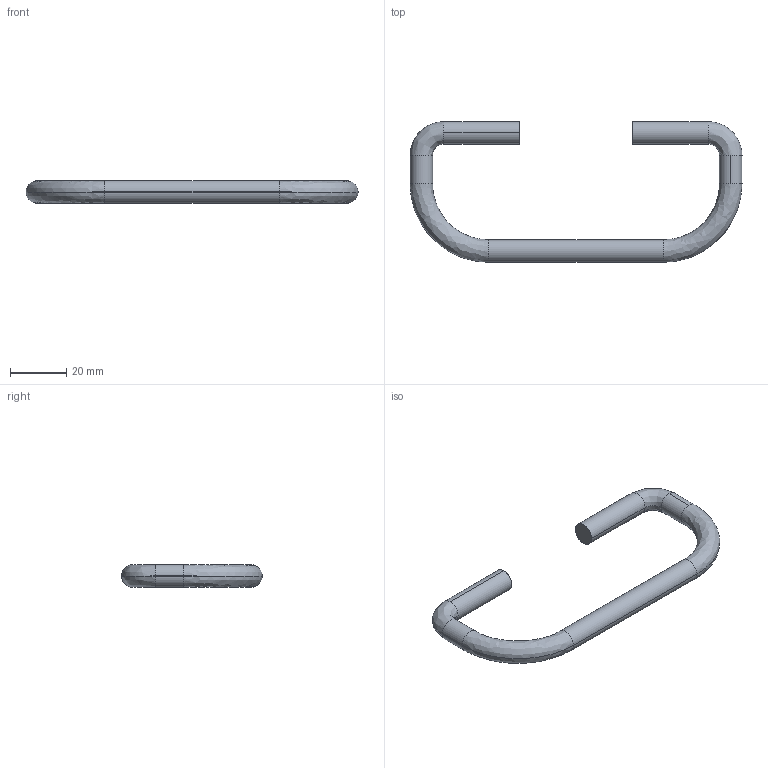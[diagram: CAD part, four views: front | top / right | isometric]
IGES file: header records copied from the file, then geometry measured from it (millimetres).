
Start section: SolidWorks IGES FILE using analytic representation for surfaces
Global section: file name: C:\Documents and Settings\lecoutey\Bureau\POF 306\POF 306 EBR.IGS; native system: SolidWorks 2004 by SolidWorks Corporation; preprocessor: Version 5.3; author: lecoutey; date: 050408.140407; units: millimetre
Bounding box: 118 x 50 x 8 mm (x, y, z)
Surface area: 6045.2 mm2 (no closed solid volume)
Topology: 0 solids, 0 shells, 20 faces, 148 edges, 148 vertices
Faces by surface type: bspline 10, revolution 10
